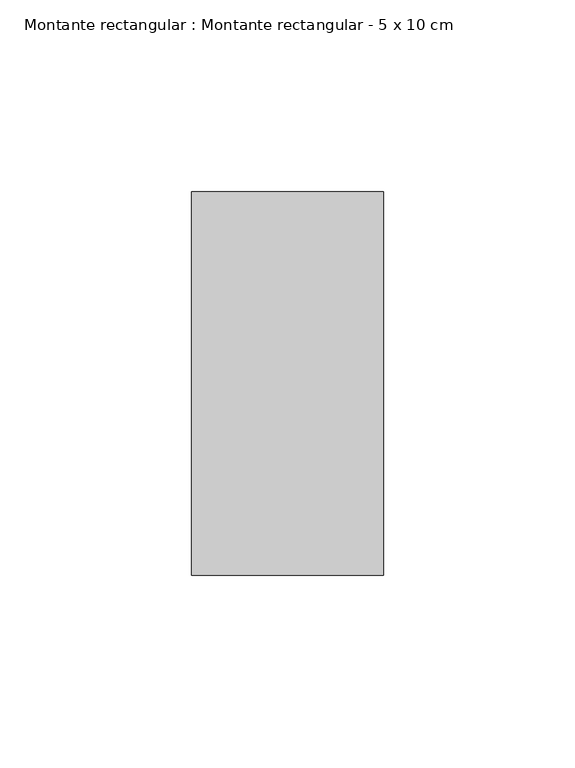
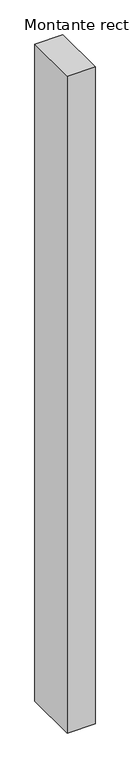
"""IFC4 building model written with IfcOpenShell, lengths in millimetres: member geometry, Montante rectangular : Montante rectangular - 5 x 10 cm."""

from ifc_helpers import new_model, si_unit, frame, origin, place, context, project, spatial, polyline, outline, extrude, source, transform, mapped, element, save


def montante_rectangular_montante_rectangular_5_x_10_cm_a84122ff(model_context):
    return source(origin(), model_context, "Body", "SweptSolid", [
        extrude(outline(polyline([(0.0, 50.0), (0.0, -50.0), (-50.0, -50.0), (-50.0, 50.0), (0.0, 50.0)])), frame((0.0, 0.0, -1245.0), z_axis=(0.0, 0.0, 1.0), x_axis=(1.0, 0.0, 0.0)), (0.0, 0.0, 1.0), 1245.0),
    ])


if __name__ == "__main__":
    model = new_model("IFC4")
    model_context = context("Model", 3, world=origin())
    ifc_project = project(units=[si_unit("LENGTHUNIT", "METRE", prefix="MILLI")], contexts=[model_context])
    site = spatial("IfcSite", under=ifc_project)
    building = spatial("IfcBuilding", under=site)
    placement = place(None, origin())
    montante_rectangular_montante_rectangular_5_x_10_cm_shape = montante_rectangular_montante_rectangular_5_x_10_cm_a84122ff(model_context)
    element("IfcMember", 1, ObjectType="Montante rectangular : Montante rectangular - 5 x 10 cm", at=placement, inside=building, context=model_context, shape_type="MappedRepresentation", body=[
        mapped(montante_rectangular_montante_rectangular_5_x_10_cm_shape, transform((0.0, 0.0, 0.0), x_axis=(1.0, 0.0, 0.0), y_axis=(0.0, 1.0, 0.0), z_axis=(0.0, 0.0, 1.0))),
    ])
    save(model, "model.ifc")
